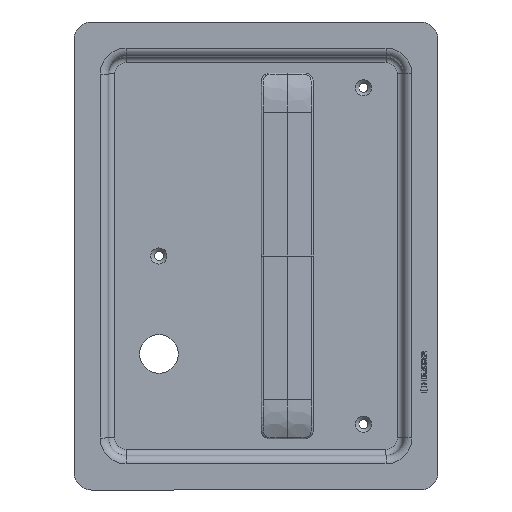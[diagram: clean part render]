
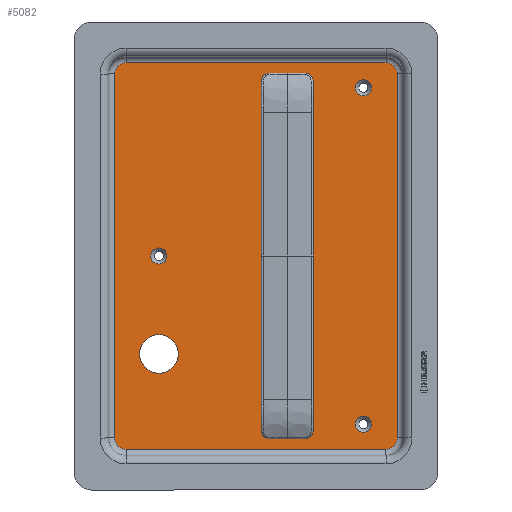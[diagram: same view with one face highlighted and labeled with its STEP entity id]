
A CAD part, front view. The second image highlights one B-rep face of the part: STEP entity #5082.
In plain terms, the highlighted planar face has unit normal (0, -1, 0) as drawn and (0, 0, -1) by its records, which use the part's own axes.
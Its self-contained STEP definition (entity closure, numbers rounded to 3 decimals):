
#454=FACE_BOUND('',#925,.T.);
#455=FACE_BOUND('',#926,.T.);
#456=FACE_BOUND('',#927,.T.);
#457=FACE_BOUND('',#928,.T.);
#458=FACE_BOUND('',#929,.T.);
#459=FACE_BOUND('',#930,.T.);
#460=FACE_BOUND('',#931,.T.);
#461=FACE_BOUND('',#932,.T.);
#491=PLANE('',#5513);
#616=FACE_OUTER_BOUND('',#924,.T.);
#924=EDGE_LOOP('',(#3535,#3536,#3537,#3538,#3539,#3540,#3541,#3542));
#925=EDGE_LOOP('',(#3543));
#926=EDGE_LOOP('',(#3544));
#927=EDGE_LOOP('',(#3545));
#928=EDGE_LOOP('',(#3546));
#929=EDGE_LOOP('',(#3547));
#930=EDGE_LOOP('',(#3548));
#931=EDGE_LOOP('',(#3549));
#932=EDGE_LOOP('',(#3550));
#1260=LINE('',#7088,#1678);
#1261=LINE('',#7092,#1679);
#1262=LINE('',#7096,#1680);
#1263=LINE('',#7100,#1681);
#1678=VECTOR('',#5933,10.);
#1679=VECTOR('',#5936,10.);
#1680=VECTOR('',#5939,10.);
#1681=VECTOR('',#5942,10.);
#2096=CIRCLE('',#5497,2.75);
#2098=CIRCLE('',#5500,2.75);
#2100=CIRCLE('',#5503,2.75);
#2102=CIRCLE('',#5506,2.75);
#2104=CIRCLE('',#5509,11.15);
#2106=CIRCLE('',#5512,4.65);
#2107=CIRCLE('',#5514,6.5);
#2108=CIRCLE('',#5515,6.5);
#2109=CIRCLE('',#5516,6.5);
#2110=CIRCLE('',#5517,6.5);
#2111=CIRCLE('',#5518,4.65);
#2112=CIRCLE('',#5519,4.65);
#2226=VERTEX_POINT('',#7052);
#2228=VERTEX_POINT('',#7058);
#2230=VERTEX_POINT('',#7064);
#2232=VERTEX_POINT('',#7070);
#2234=VERTEX_POINT('',#7076);
#2236=VERTEX_POINT('',#7082);
#2237=VERTEX_POINT('',#7086);
#2238=VERTEX_POINT('',#7087);
#2239=VERTEX_POINT('',#7089);
#2240=VERTEX_POINT('',#7091);
#2241=VERTEX_POINT('',#7093);
#2242=VERTEX_POINT('',#7095);
#2243=VERTEX_POINT('',#7097);
#2244=VERTEX_POINT('',#7099);
#2245=VERTEX_POINT('',#7102);
#2246=VERTEX_POINT('',#7104);
#2728=EDGE_CURVE('',#2226,#2226,#2096,.T.);
#2731=EDGE_CURVE('',#2228,#2228,#2098,.T.);
#2734=EDGE_CURVE('',#2230,#2230,#2100,.T.);
#2737=EDGE_CURVE('',#2232,#2232,#2102,.T.);
#2740=EDGE_CURVE('',#2234,#2234,#2104,.T.);
#2743=EDGE_CURVE('',#2236,#2236,#2106,.T.);
#2745=EDGE_CURVE('',#2237,#2238,#1260,.T.);
#2746=EDGE_CURVE('',#2238,#2239,#2107,.T.);
#2747=EDGE_CURVE('',#2239,#2240,#1261,.T.);
#2748=EDGE_CURVE('',#2240,#2241,#2108,.T.);
#2749=EDGE_CURVE('',#2241,#2242,#1262,.T.);
#2750=EDGE_CURVE('',#2242,#2243,#2109,.T.);
#2751=EDGE_CURVE('',#2243,#2244,#1263,.T.);
#2752=EDGE_CURVE('',#2244,#2237,#2110,.T.);
#2753=EDGE_CURVE('',#2245,#2245,#2111,.T.);
#2754=EDGE_CURVE('',#2246,#2246,#2112,.T.);
#3535=ORIENTED_EDGE('',*,*,#2745,.T.);
#3536=ORIENTED_EDGE('',*,*,#2746,.T.);
#3537=ORIENTED_EDGE('',*,*,#2747,.T.);
#3538=ORIENTED_EDGE('',*,*,#2748,.T.);
#3539=ORIENTED_EDGE('',*,*,#2749,.T.);
#3540=ORIENTED_EDGE('',*,*,#2750,.T.);
#3541=ORIENTED_EDGE('',*,*,#2751,.T.);
#3542=ORIENTED_EDGE('',*,*,#2752,.T.);
#3543=ORIENTED_EDGE('',*,*,#2728,.T.);
#3544=ORIENTED_EDGE('',*,*,#2731,.T.);
#3545=ORIENTED_EDGE('',*,*,#2734,.T.);
#3546=ORIENTED_EDGE('',*,*,#2737,.T.);
#3547=ORIENTED_EDGE('',*,*,#2740,.T.);
#3548=ORIENTED_EDGE('',*,*,#2753,.F.);
#3549=ORIENTED_EDGE('',*,*,#2754,.F.);
#3550=ORIENTED_EDGE('',*,*,#2743,.F.);
#5082=ADVANCED_FACE('',(#616,#454,#455,#456,#457,#458,#459,#460,#461),#491, .F.);
#5497=AXIS2_PLACEMENT_3D('',#7053,#5893,#5894);
#5500=AXIS2_PLACEMENT_3D('',#7059,#5900,#5901);
#5503=AXIS2_PLACEMENT_3D('',#7065,#5907,#5908);
#5506=AXIS2_PLACEMENT_3D('',#7071,#5914,#5915);
#5509=AXIS2_PLACEMENT_3D('',#7077,#5921,#5922);
#5512=AXIS2_PLACEMENT_3D('',#7083,#5928,#5929);
#5513=AXIS2_PLACEMENT_3D('',#7085,#5931,#5932);
#5514=AXIS2_PLACEMENT_3D('',#7090,#5934,#5935);
#5515=AXIS2_PLACEMENT_3D('',#7094,#5937,#5938);
#5516=AXIS2_PLACEMENT_3D('',#7098,#5940,#5941);
#5517=AXIS2_PLACEMENT_3D('',#7101,#5943,#5944);
#5518=AXIS2_PLACEMENT_3D('',#7103,#5945,#5946);
#5519=AXIS2_PLACEMENT_3D('',#7105,#5947,#5948);
#5893=DIRECTION('center_axis',(0.,0.,1.));
#5894=DIRECTION('ref_axis',(1.,0.,0.));
#5900=DIRECTION('center_axis',(0.,0.,1.));
#5901=DIRECTION('ref_axis',(1.,0.,0.));
#5907=DIRECTION('center_axis',(0.,0.,1.));
#5908=DIRECTION('ref_axis',(1.,0.,0.));
#5914=DIRECTION('center_axis',(0.,0.,1.));
#5915=DIRECTION('ref_axis',(1.,0.,0.));
#5921=DIRECTION('center_axis',(0.,0.,1.));
#5922=DIRECTION('ref_axis',(1.,0.,0.));
#5928=DIRECTION('center_axis',(0.,0.,-1.));
#5929=DIRECTION('ref_axis',(1.,0.,0.));
#5931=DIRECTION('center_axis',(0.,0.,1.));
#5932=DIRECTION('ref_axis',(1.,0.,0.));
#5933=DIRECTION('',(-1.,0.,0.));
#5934=DIRECTION('center_axis',(0.,0.,-1.));
#5935=DIRECTION('ref_axis',(-0.707,-0.707,0.));
#5936=DIRECTION('',(0.,1.,0.));
#5937=DIRECTION('center_axis',(0.,0.,-1.));
#5938=DIRECTION('ref_axis',(-0.707,0.707,0.));
#5939=DIRECTION('',(1.,0.,0.));
#5940=DIRECTION('center_axis',(0.,0.,-1.));
#5941=DIRECTION('ref_axis',(0.707,0.707,0.));
#5942=DIRECTION('',(0.,-1.,0.));
#5943=DIRECTION('center_axis',(0.,0.,-1.));
#5944=DIRECTION('ref_axis',(0.707,-0.707,0.));
#5945=DIRECTION('center_axis',(0.,0.,-1.));
#5946=DIRECTION('ref_axis',(1.,0.,0.));
#5947=DIRECTION('center_axis',(0.,0.,-1.));
#5948=DIRECTION('ref_axis',(1.,0.,0.));
#7052=CARTESIAN_POINT('',(17.75,98.,42.));
#7053=CARTESIAN_POINT('Origin',(20.5,98.,42.));
#7058=CARTESIAN_POINT('',(17.75,-98.,42.));
#7059=CARTESIAN_POINT('Origin',(20.5,-98.,42.));
#7064=CARTESIAN_POINT('',(32.75,-98.,42.));
#7065=CARTESIAN_POINT('Origin',(35.5,-98.,42.));
#7070=CARTESIAN_POINT('',(32.75,98.,42.));
#7071=CARTESIAN_POINT('Origin',(35.5,98.,42.));
#7076=CARTESIAN_POINT('',(-57.15,56.5,42.));
#7077=CARTESIAN_POINT('Origin',(-46.,56.5,42.));
#7082=CARTESIAN_POINT('',(67.35,97.,42.));
#7083=CARTESIAN_POINT('Origin',(72.,97.,42.));
#7085=CARTESIAN_POINT('Origin',(10.,0.,42.));
#7086=CARTESIAN_POINT('',(85.,-111.5,42.));
#7087=CARTESIAN_POINT('',(-65.,-111.5,42.));
#7088=CARTESIAN_POINT('',(47.5,-111.5,42.));
#7089=CARTESIAN_POINT('',(-71.5,-105.,42.));
#7090=CARTESIAN_POINT('Origin',(-65.,-105.,42.));
#7091=CARTESIAN_POINT('',(-71.5,105.,42.));
#7092=CARTESIAN_POINT('',(-71.5,-52.5,42.));
#7093=CARTESIAN_POINT('',(-65.,111.5,42.));
#7094=CARTESIAN_POINT('Origin',(-65.,105.,42.));
#7095=CARTESIAN_POINT('',(85.,111.5,42.));
#7096=CARTESIAN_POINT('',(-27.5,111.5,42.));
#7097=CARTESIAN_POINT('',(91.5,105.,42.));
#7098=CARTESIAN_POINT('Origin',(85.,105.,42.));
#7099=CARTESIAN_POINT('',(91.5,-105.,42.));
#7100=CARTESIAN_POINT('',(91.5,52.5,42.));
#7101=CARTESIAN_POINT('Origin',(85.,-105.,42.));
#7102=CARTESIAN_POINT('',(67.35,-97.,42.));
#7103=CARTESIAN_POINT('Origin',(72.,-97.,42.));
#7104=CARTESIAN_POINT('',(-50.65,0.,42.));
#7105=CARTESIAN_POINT('Origin',(-46.,0.,42.));
